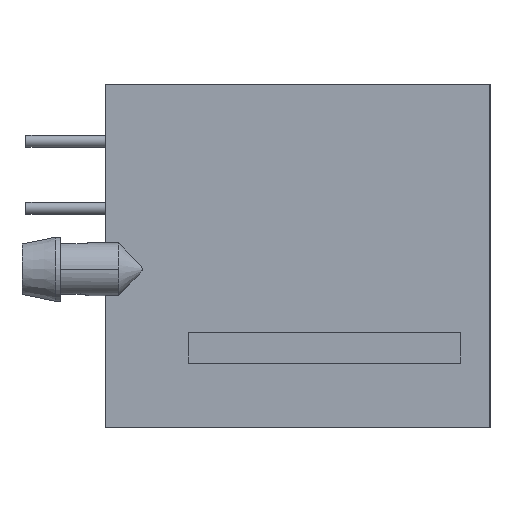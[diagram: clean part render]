
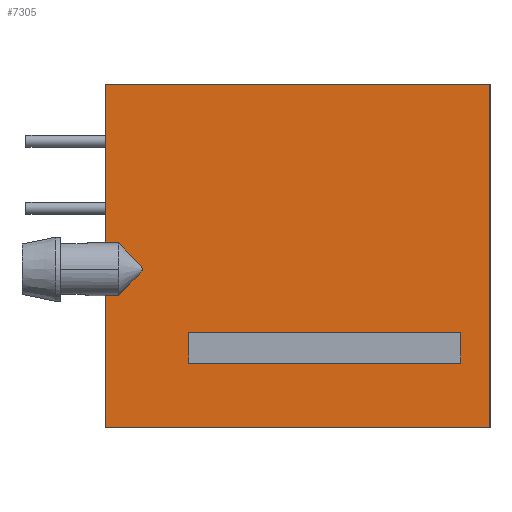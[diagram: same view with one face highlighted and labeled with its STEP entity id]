
A CAD part, left-side view. The second image highlights one B-rep face of the part: STEP entity #7305.
In plain terms, the highlighted planar face has unit normal (-1, 0, 0).
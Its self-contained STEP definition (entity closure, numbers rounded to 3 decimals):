
#328=DIRECTION('',(0.,0.,1.));
#329=VECTOR('',#328,6.005);
#330=CARTESIAN_POINT('',(-11.6,7.275,0.495));
#331=LINE('',#330,#329);
#332=DIRECTION('',(0.,0.,-1.));
#333=VECTOR('',#332,13.);
#334=CARTESIAN_POINT('',(-11.6,-7.275,6.5));
#335=LINE('',#334,#333);
#336=DIRECTION('',(0.,1.,0.));
#337=VECTOR('',#336,14.55);
#338=CARTESIAN_POINT('',(-11.6,-7.275,-6.5));
#339=LINE('',#338,#337);
#353=DIRECTION('',(0.,0.,1.));
#354=VECTOR('',#353,5.005);
#355=CARTESIAN_POINT('',(-11.6,7.275,-6.5));
#356=LINE('',#355,#354);
#379=DIRECTION('',(0.,1.,0.));
#380=VECTOR('',#379,0.5);
#381=CARTESIAN_POINT('',(-11.6,6.775,-1.495));
#382=LINE('',#381,#380);
#383=DIRECTION('',(0.,-1.,0.));
#384=VECTOR('',#383,0.5);
#385=CARTESIAN_POINT('',(-11.6,7.275,0.495));
#386=LINE('',#385,#384);
#427=CARTESIAN_POINT('',(-11.6,6.775,0.495));
#428=CARTESIAN_POINT('',(-11.6,6.738,0.458));
#429=CARTESIAN_POINT('',(-11.6,6.668,0.387));
#430=CARTESIAN_POINT('',(-11.6,6.571,0.29));
#431=CARTESIAN_POINT('',(-11.6,6.482,0.199));
#432=CARTESIAN_POINT('',(-11.6,6.399,0.116));
#433=CARTESIAN_POINT('',(-11.6,6.324,0.04));
#434=CARTESIAN_POINT('',(-11.6,6.254,
-0.031));
#435=CARTESIAN_POINT('',(-11.6,6.191,
-0.096));
#436=CARTESIAN_POINT('',(-11.6,6.133,
-0.156));
#437=CARTESIAN_POINT('',(-11.6,6.081,
-0.211));
#438=CARTESIAN_POINT('',(-11.6,6.033,
-0.261));
#439=CARTESIAN_POINT('',(-11.6,5.991,
-0.308));
#440=CARTESIAN_POINT('',(-11.6,5.954,
-0.351));
#441=CARTESIAN_POINT('',(-11.6,5.922,
-0.391));
#442=CARTESIAN_POINT('',(-11.6,5.896,
-0.429));
#443=CARTESIAN_POINT('',(-11.6,5.879,
-0.466));
#444=CARTESIAN_POINT('',(-11.6,5.875,
-0.489));
#445=CARTESIAN_POINT('',(-11.6,5.875,
-0.5));
#447=CARTESIAN_POINT('',(-11.6,5.875,
-0.5));
#448=CARTESIAN_POINT('',(-11.6,5.875,
-0.511));
#449=CARTESIAN_POINT('',(-11.6,5.879,
-0.534));
#450=CARTESIAN_POINT('',(-11.6,5.897,
-0.571));
#451=CARTESIAN_POINT('',(-11.6,5.922,
-0.609));
#452=CARTESIAN_POINT('',(-11.6,5.954,
-0.649));
#453=CARTESIAN_POINT('',(-11.6,5.991,
-0.692));
#454=CARTESIAN_POINT('',(-11.6,6.034,
-0.739));
#455=CARTESIAN_POINT('',(-11.6,6.081,
-0.79));
#456=CARTESIAN_POINT('',(-11.6,6.134,
-0.845));
#457=CARTESIAN_POINT('',(-11.6,6.192,
-0.904));
#458=CARTESIAN_POINT('',(-11.6,6.255,
-0.969));
#459=CARTESIAN_POINT('',(-11.6,6.324,-1.04));
#460=CARTESIAN_POINT('',(-11.6,6.4,-1.117));
#461=CARTESIAN_POINT('',(-11.6,6.482,-1.2));
#462=CARTESIAN_POINT('',(-11.6,6.571,-1.29));
#463=CARTESIAN_POINT('',(-11.6,6.668,-1.388));
#464=CARTESIAN_POINT('',(-11.6,6.738,-1.458));
#465=CARTESIAN_POINT('',(-11.6,6.775,-1.495));
#635=DIRECTION('',(0.,-1.,0.));
#636=VECTOR('',#635,14.55);
#637=CARTESIAN_POINT('',(-11.6,7.275,6.5));
#638=LINE('',#637,#636);
#4675=DIRECTION('',(0.,0.,-1.));
#4676=VECTOR('',#4675,1.15);
#4677=CARTESIAN_POINT('',(-11.6,-6.175,-2.9));
#4678=LINE('',#4677,#4676);
#4679=DIRECTION('',(0.,1.,0.));
#4680=VECTOR('',#4679,10.3);
#4681=CARTESIAN_POINT('',(-11.6,-6.175,-4.05));
#4682=LINE('',#4681,#4680);
#4687=DIRECTION('',(0.,0.,-1.));
#4688=VECTOR('',#4687,1.15);
#4689=CARTESIAN_POINT('',(-11.6,4.125,-2.9));
#4690=LINE('',#4689,#4688);
#4695=DIRECTION('',(0.,1.,0.));
#4696=VECTOR('',#4695,10.3);
#4697=CARTESIAN_POINT('',(-11.6,-6.175,-2.9));
#4698=LINE('',#4697,#4696);
#5171=CARTESIAN_POINT('',(-11.6,-7.275,-6.5));
#5172=VERTEX_POINT('',#5171);
#5173=CARTESIAN_POINT('',(-11.6,7.275,-6.5));
#5174=VERTEX_POINT('',#5173);
#5255=CARTESIAN_POINT('',(-11.6,7.275,6.5));
#5256=VERTEX_POINT('',#5255);
#5257=CARTESIAN_POINT('',(-11.6,7.275,0.495));
#5258=VERTEX_POINT('',#5257);
#5279=CARTESIAN_POINT('',(-11.6,-7.275,6.5));
#5280=VERTEX_POINT('',#5279);
#5281=CARTESIAN_POINT('',(-11.6,7.275,-1.495));
#5282=VERTEX_POINT('',#5281);
#5283=CARTESIAN_POINT('',(-11.6,6.775,0.495));
#5284=VERTEX_POINT('',#5283);
#5285=VERTEX_POINT('',#445);
#5286=VERTEX_POINT('',#465);
#5287=CARTESIAN_POINT('',(-11.6,-6.175,-2.9));
#5288=CARTESIAN_POINT('',(-11.6,-6.175,-4.05));
#5289=VERTEX_POINT('',#5287);
#5290=VERTEX_POINT('',#5288);
#5291=CARTESIAN_POINT('',(-11.6,4.125,-4.05));
#5292=VERTEX_POINT('',#5291);
#5293=CARTESIAN_POINT('',(-11.6,4.125,-2.9));
#5294=VERTEX_POINT('',#5293);
#7273=CARTESIAN_POINT('',(-11.6,0.,0.));
#7274=DIRECTION('',(1.,0.,0.));
#7275=DIRECTION('',(0.,-1.,0.));
#7276=AXIS2_PLACEMENT_3D('',#7273,#7274,#7275);
#7277=PLANE('',#7276);
#7279=ORIENTED_EDGE('',*,*,#7278,.T.);
#7281=ORIENTED_EDGE('',*,*,#7280,.F.);
#7283=ORIENTED_EDGE('',*,*,#7282,.F.);
#7285=ORIENTED_EDGE('',*,*,#7284,.F.);
#7287=ORIENTED_EDGE('',*,*,#7286,.F.);
#7288=ORIENTED_EDGE('',*,*,#7161,.T.);
#7290=ORIENTED_EDGE('',*,*,#7289,.T.);
#7291=ORIENTED_EDGE('',*,*,#7265,.T.);
#7292=ORIENTED_EDGE('',*,*,#7003,.T.);
#7293=EDGE_LOOP('',(#7279,#7281,#7283,#7285,#7287,#7288,#7290,#7291,#7292));
#7294=FACE_OUTER_BOUND('',#7293,.F.);
#7296=ORIENTED_EDGE('',*,*,#7295,.F.);
#7298=ORIENTED_EDGE('',*,*,#7297,.T.);
#7300=ORIENTED_EDGE('',*,*,#7299,.T.);
#7302=ORIENTED_EDGE('',*,*,#7301,.F.);
#7303=EDGE_LOOP('',(#7296,#7298,#7300,#7302));
#7304=FACE_BOUND('',#7303,.F.);
#7305=ADVANCED_FACE('',(#7294,#7304),#7277,.F.);
#446=B_SPLINE_CURVE_WITH_KNOTS('',3,(#427,#428,#429,#430,#431,#432,#433,#434,
#435,#436,#437,#438,#439,#440,#441,#442,#443,#444,#445),.UNSPECIFIED.,.F.,.F.,
(4,1,1,1,1,1,1,1,1,1,1,1,1,1,1,1,4),(0.,0.063,0.125,0.188,0.25,
0.313,0.375,0.438,0.5,0.563,0.625,0.688,0.75,0.813,
0.875,0.938,1.),.UNSPECIFIED.);
#466=B_SPLINE_CURVE_WITH_KNOTS('',3,(#447,#448,#449,#450,#451,#452,#453,#454,
#455,#456,#457,#458,#459,#460,#461,#462,#463,#464,#465),.UNSPECIFIED.,.F.,.F.,
(4,1,1,1,1,1,1,1,1,1,1,1,1,1,1,1,4),(0.,0.063,0.125,0.188,0.25,
0.313,0.375,0.438,0.5,0.563,0.625,0.688,0.75,0.813,
0.875,0.938,1.),.UNSPECIFIED.);
#7003=EDGE_CURVE('',#5172,#5174,#339,.T.);
#7161=EDGE_CURVE('',#5258,#5256,#331,.T.);
#7265=EDGE_CURVE('',#5280,#5172,#335,.T.);
#7278=EDGE_CURVE('',#5174,#5282,#356,.T.);
#7280=EDGE_CURVE('',#5286,#5282,#382,.T.);
#7282=EDGE_CURVE('',#5285,#5286,#466,.T.);
#7284=EDGE_CURVE('',#5284,#5285,#446,.T.);
#7286=EDGE_CURVE('',#5258,#5284,#386,.T.);
#7289=EDGE_CURVE('',#5256,#5280,#638,.T.);
#7295=EDGE_CURVE('',#5289,#5290,#4678,.T.);
#7297=EDGE_CURVE('',#5289,#5294,#4698,.T.);
#7299=EDGE_CURVE('',#5294,#5292,#4690,.T.);
#7301=EDGE_CURVE('',#5290,#5292,#4682,.T.);
